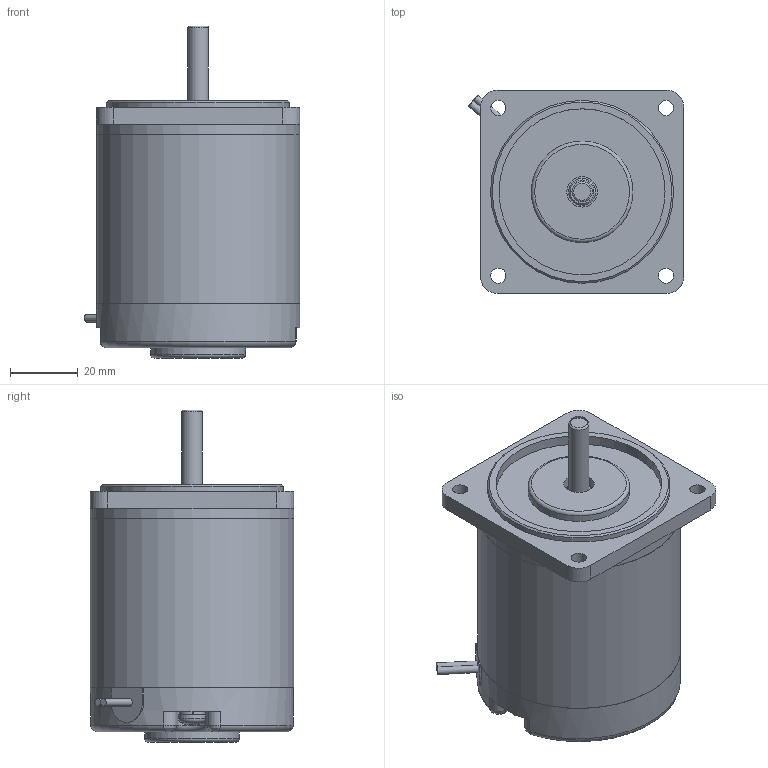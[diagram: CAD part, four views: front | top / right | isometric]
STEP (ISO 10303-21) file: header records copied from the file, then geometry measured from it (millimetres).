
FILE_DESCRIPTION((''),'2;1');
FILE_NAME('D:\연구개발부2팀 1파트\10_진행업무\3D_60각\S6D06-ㅁS.stp','2013-06-05T15:27:22',('song'),(''),'Autodesk Inventor 2011','Autodesk Inventor 2011','');
FILE_SCHEMA(('AUTOMOTIVE_DESIGN { 1 0 10303 214 1 1 1 1 }'));
Length unit declared in the file: millimetre
Products named in the file (9): S6D15-12; FRONT HOUSING; REAR HOUSING ASS'Y; REAR HOUSING; cord bush; NF EN ISO 7045 - Z M4 x 40 - 4.8 - Z; AS 1968 4; PIPE HOUSING; shaft_straight
Assembly tree (9 placements, depth 2):
  S6D15-12
    FRONT HOUSING
    PIPE HOUSING
    shaft_straight
  REAR HOUSING ASS'Y
    REAR HOUSING
    cord bush
    NF EN ISO 7045 - Z M4 x 40 - 4.8 - Z  x2
    AS 1968 4  x2
Bounding box: 63.59 x 60 x 98 mm (x, y, z)
Volume: 200186.1 mm3; surface area: 36721 mm2
Topology: 9 solids, 9 shells, 184 faces, 422 edges, 266 vertices
Faces by surface type: plane 82, cylinder 43, cone 36, torus 17, bspline 4, sphere 2
Full cylindrical faces by diameter (mm): 2.2 x2, 3.621 x2, 4 x2, 4.5 x6, 6 x1, 8 x1, 9 x1, 28 x1, 30 x1, 49 x1, 54 x1, 55 x1, 60 x3
Entity records: 4395 total; most frequent: CARTESIAN_POINT 1155, DIRECTION 675, ORIENTED_EDGE 546, AXIS2_PLACEMENT_3D 297, EDGE_CURVE 273, VERTEX_POINT 189, EDGE_LOOP 189, FACE_OUTER_BOUND 136
